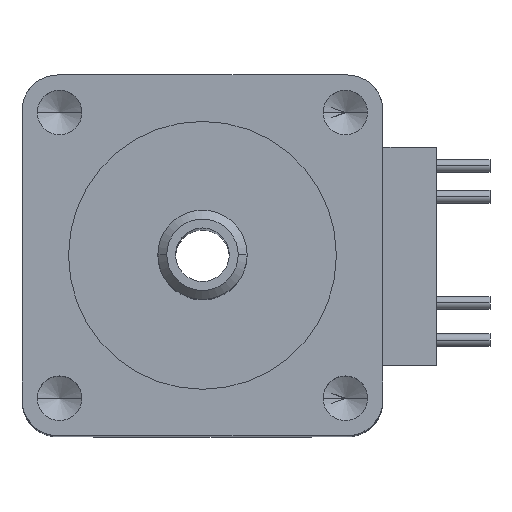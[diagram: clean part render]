
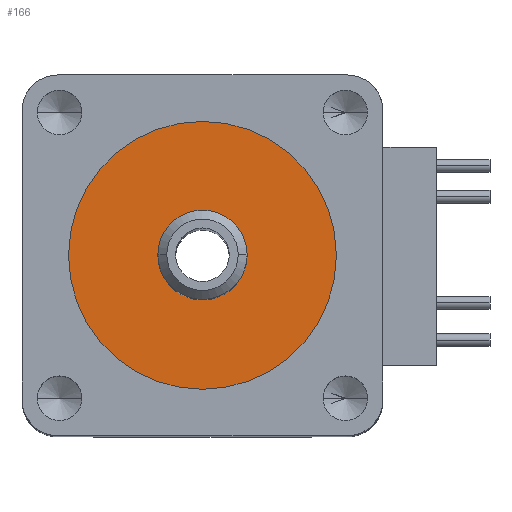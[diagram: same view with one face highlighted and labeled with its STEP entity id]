
A CAD part, top view. The second image highlights one B-rep face of the part: STEP entity #166.
In plain terms, the highlighted planar face has unit normal (0, 0, 1).
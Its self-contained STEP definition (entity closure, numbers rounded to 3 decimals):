
#166 = ADVANCED_FACE ( 'NONE', ( #2702, #2711 ), #645, .T. ) ;
#266 = EDGE_CURVE ( 'NONE', #1516, #1453, #2816, .T. ) ;
#641 = DIRECTION ( 'NONE',  ( 1., 0., 0. ) ) ;
#645 = PLANE ( 'NONE',  #2098 ) ;
#661 = DIRECTION ( 'NONE',  ( 0., 0., 1. ) ) ;
#664 = CARTESIAN_POINT ( 'NONE',  ( 0., 0., 41.5 ) ) ;
#916 = EDGE_LOOP ( 'NONE', ( #1072, #1098 ) ) ;
#990 = ORIENTED_EDGE ( 'NONE', *, *, #2051, .F. ) ;
#1017 = EDGE_LOOP ( 'NONE', ( #990, #1074 ) ) ;
#1072 = ORIENTED_EDGE ( 'NONE', *, *, #2062, .T. ) ;
#1074 = ORIENTED_EDGE ( 'NONE', *, *, #266, .F. ) ;
#1098 = ORIENTED_EDGE ( 'NONE', *, *, #1729, .T. ) ;
#1453 = VERTEX_POINT ( 'NONE', #4706 ) ;
#1457 = VERTEX_POINT ( 'NONE', #4742 ) ;
#1516 = VERTEX_POINT ( 'NONE', #4762 ) ;
#1517 = VERTEX_POINT ( 'NONE', #4786 ) ;
#1729 = EDGE_CURVE ( 'NONE', #1457, #1517, #5483, .T. ) ;
#2051 = EDGE_CURVE ( 'NONE', #1453, #1516, #5849, .T. ) ;
#2062 = EDGE_CURVE ( 'NONE', #1517, #1457, #5805, .T. ) ;
#2098 = AXIS2_PLACEMENT_3D ( 'NONE', #664, #661, #641 ) ;
#2269 = AXIS2_PLACEMENT_3D ( 'NONE', #3490, #3464, #3470 ) ;
#2702 = FACE_BOUND ( 'NONE', #916, .T. ) ;
#2711 = FACE_OUTER_BOUND ( 'NONE', #1017, .T. ) ;
#2816 = CIRCLE ( 'NONE', #2269, 7.5 ) ;
#3464 = DIRECTION ( 'NONE',  ( 0., 0., -1. ) ) ;
#3470 = DIRECTION ( 'NONE',  ( -1., 0., 0. ) ) ;
#3490 = CARTESIAN_POINT ( 'NONE',  ( 0., 0., 41.5 ) ) ;
#4358 = AXIS2_PLACEMENT_3D ( 'NONE', #4877, #4879, #4880 ) ;
#4379 = AXIS2_PLACEMENT_3D ( 'NONE', #5972, #5939, #5936 ) ;
#4401 = AXIS2_PLACEMENT_3D ( 'NONE', #5971, #5949, #5963 ) ;
#4706 = CARTESIAN_POINT ( 'NONE',  ( -7.5, 0., 41.5 ) ) ;
#4742 = CARTESIAN_POINT ( 'NONE',  ( 2.5, 0., 41.5 ) ) ;
#4762 = CARTESIAN_POINT ( 'NONE',  ( 7.5, 0., 41.5 ) ) ;
#4786 = CARTESIAN_POINT ( 'NONE',  ( -2.5, 0., 41.5 ) ) ;
#4877 = CARTESIAN_POINT ( 'NONE',  ( 0., 0., 41.5 ) ) ;
#4879 = DIRECTION ( 'NONE',  ( 0., 0., -1. ) ) ;
#4880 = DIRECTION ( 'NONE',  ( -1., 0., 0. ) ) ;
#5483 = CIRCLE ( 'NONE', #4358, 2.5 ) ;
#5805 = CIRCLE ( 'NONE', #4401, 2.5 ) ;
#5849 = CIRCLE ( 'NONE', #4379, 7.5 ) ;
#5936 = DIRECTION ( 'NONE',  ( -1., 0., 0. ) ) ;
#5939 = DIRECTION ( 'NONE',  ( 0., 0., -1. ) ) ;
#5949 = DIRECTION ( 'NONE',  ( 0., 0., -1. ) ) ;
#5963 = DIRECTION ( 'NONE',  ( -1., 0., 0. ) ) ;
#5971 = CARTESIAN_POINT ( 'NONE',  ( 0., 0., 41.5 ) ) ;
#5972 = CARTESIAN_POINT ( 'NONE',  ( 0., 0., 41.5 ) ) ;
